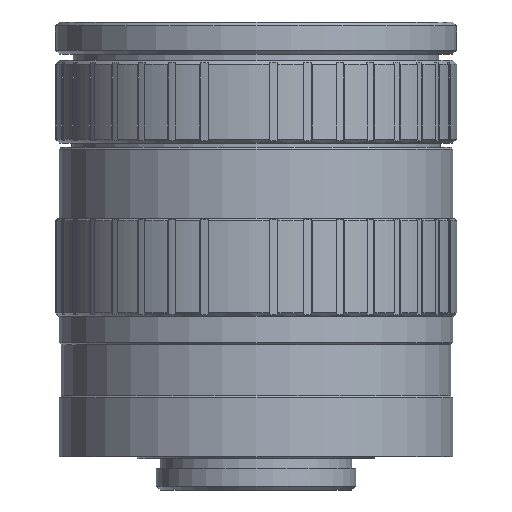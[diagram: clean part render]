
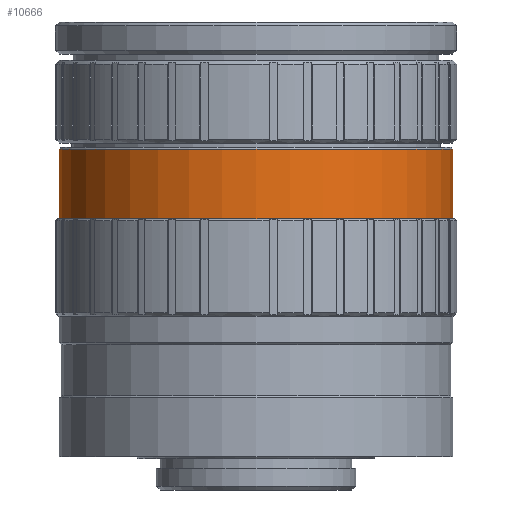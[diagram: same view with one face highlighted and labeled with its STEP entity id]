
A CAD part, front view. The second image highlights one B-rep face of the part: STEP entity #10666.
In plain terms, the highlighted cylindrical face has radius 25 mm (diameter 50 mm), a partial arc.
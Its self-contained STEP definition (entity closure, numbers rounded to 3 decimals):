
#16 = DIRECTION ( 'NONE',  ( 0., 0., 1. ) ) ;
#174 = CARTESIAN_POINT ( 'NONE',  ( -25., 0., 39.34 ) ) ;
#563 = AXIS2_PLACEMENT_3D ( 'NONE', #11125, #5697, #12013 ) ;
#603 = DIRECTION ( 'NONE',  ( 0., 0., 1. ) ) ;
#824 = CARTESIAN_POINT ( 'NONE',  ( 0., 0., 50. ) ) ;
#1946 = FACE_OUTER_BOUND ( 'NONE', #9631, .T. ) ;
#2227 = VERTEX_POINT ( 'NONE', #9153 ) ;
#2571 = CARTESIAN_POINT ( 'NONE',  ( -25., 0., 50. ) ) ;
#3431 = AXIS2_PLACEMENT_3D ( 'NONE', #824, #4624, #7511 ) ;
#3492 = ORIENTED_EDGE ( 'NONE', *, *, #10946, .T. ) ;
#3907 = VERTEX_POINT ( 'NONE', #10712 ) ;
#4187 = CYLINDRICAL_SURFACE ( 'NONE', #3431, 25. ) ;
#4624 = DIRECTION ( 'NONE',  ( 0., 0., 1. ) ) ;
#5313 = ORIENTED_EDGE ( 'NONE', *, *, #10051, .F. ) ;
#5697 = DIRECTION ( 'NONE',  ( 0., 0., 1. ) ) ;
#5804 = CARTESIAN_POINT ( 'NONE',  ( 0., 0., 39.34 ) ) ;
#6128 = VERTEX_POINT ( 'NONE', #174 ) ;
#6648 = EDGE_CURVE ( 'NONE', #6128, #3907, #9060, .T. ) ;
#6761 = DIRECTION ( 'NONE',  ( 1., 0., 0. ) ) ;
#7137 = ORIENTED_EDGE ( 'NONE', *, *, #9753, .T. ) ;
#7181 = CIRCLE ( 'NONE', #563, 25. ) ;
#7511 = DIRECTION ( 'NONE',  ( 1., 0., 0. ) ) ;
#7559 = CARTESIAN_POINT ( 'NONE',  ( 25., 0., 50. ) ) ;
#7856 = ORIENTED_EDGE ( 'NONE', *, *, #6648, .F. ) ;
#9060 = CIRCLE ( 'NONE', #11155, 25. ) ;
#9153 = CARTESIAN_POINT ( 'NONE',  ( -25., 0., 30.5 ) ) ;
#9441 = VECTOR ( 'NONE', #603, 1000. ) ;
#9631 = EDGE_LOOP ( 'NONE', ( #5313, #7137, #3492, #7856 ) ) ;
#9753 = EDGE_CURVE ( 'NONE', #2227, #11463, #7181, .T. ) ;
#10051 = EDGE_CURVE ( 'NONE', #2227, #6128, #10275, .T. ) ;
#10168 = DIRECTION ( 'NONE',  ( 0., 0., 1. ) ) ;
#10230 = CARTESIAN_POINT ( 'NONE',  ( 25., 0., 30.5 ) ) ;
#10275 = LINE ( 'NONE', #2571, #9441 ) ;
#10666 = ADVANCED_FACE ( 'NONE', ( #1946 ), #4187, .T. ) ;
#10712 = CARTESIAN_POINT ( 'NONE',  ( 25., 0., 39.34 ) ) ;
#10946 = EDGE_CURVE ( 'NONE', #11463, #3907, #11348, .T. ) ;
#11125 = CARTESIAN_POINT ( 'NONE',  ( 0., 0., 30.5 ) ) ;
#11155 = AXIS2_PLACEMENT_3D ( 'NONE', #5804, #16, #6761 ) ;
#11348 = LINE ( 'NONE', #7559, #11905 ) ;
#11463 = VERTEX_POINT ( 'NONE', #10230 ) ;
#11905 = VECTOR ( 'NONE', #10168, 1000. ) ;
#12013 = DIRECTION ( 'NONE',  ( 1., 0., 0. ) ) ;
